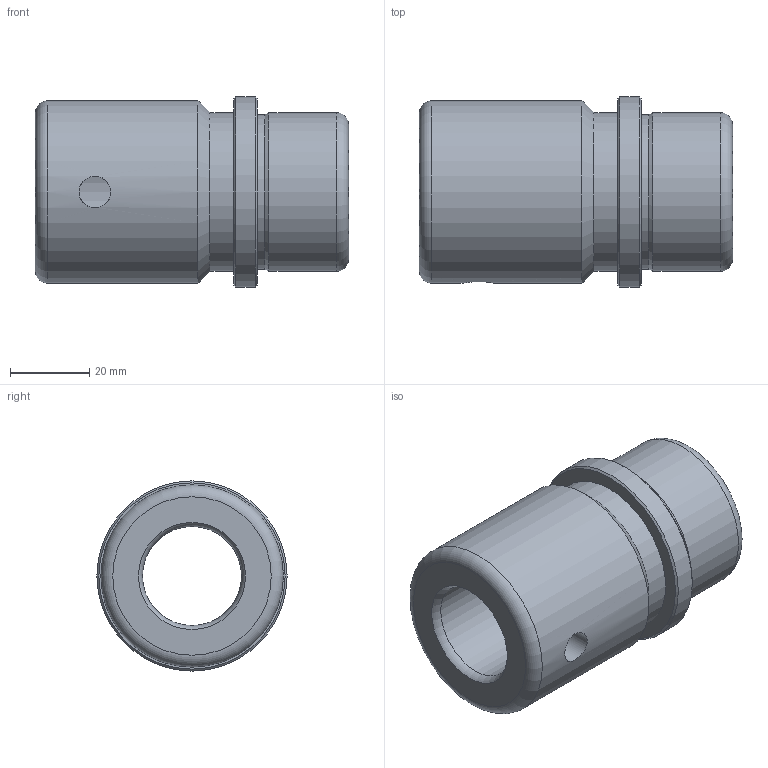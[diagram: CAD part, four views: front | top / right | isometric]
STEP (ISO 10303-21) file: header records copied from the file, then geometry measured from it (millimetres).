
FILE_DESCRIPTION(/* description */ ('Impex Ready, www.impex-ready.pl'),/* implementation_level */ '2;1');
FILE_NAME(/* name */ 'C:\Users\VIKKY\Nextcloud\SM\projekt 10 - części na stronę internetową\Pliki_3D_new\273 Tuleje BEBA\273_BEBA_STEP\BEBA25-1.ipt.step',/* time_stamp */ '2022-01-19T05:44:24+01:00',/* author */ ('SM'),/* organization */ (''),/* preprocessor_version */ 'ST-DEVELOPER v18.1',/* originating_system */ 'Autodesk Inventor 2021',/* authorisation */ '');
FILE_SCHEMA (('AUTOMOTIVE_DESIGN { 1 0 10303 214 3 1 1 }'));
Length unit declared in the file: millimetre
Products named in the file (1): BEBA25-1
Bounding box: 79 x 48 x 48 mm (x, y, z)
Volume: 79688.7 mm3; surface area: 33278.1 mm2
Topology: 2 solids, 2 shells, 22 faces, 54 edges, 32 vertices
Faces by surface type: cylinder 10, torus 4, plane 4, cone 4
Full cylindrical faces by diameter (mm): 8 x2, 25 x1, 27 x2, 39 x1, 40 x2, 46 x1, 48 x1
Entity records: 882 total; most frequent: CARTESIAN_POINT 249, DIRECTION 116, ORIENTED_EDGE 108, EDGE_CURVE 54, AXIS2_PLACEMENT_3D 49, VERTEX_POINT 32, CIRCLE 26, EDGE_LOOP 26
